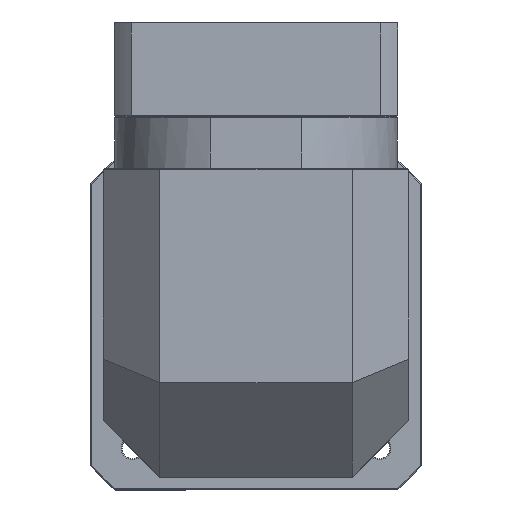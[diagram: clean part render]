
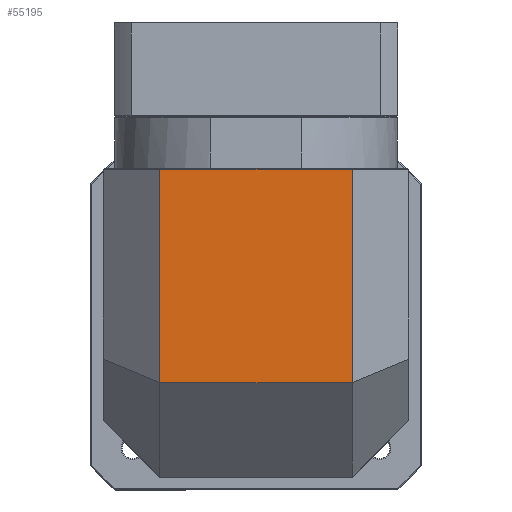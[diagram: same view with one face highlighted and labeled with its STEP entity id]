
A CAD part, top view. The second image highlights one B-rep face of the part: STEP entity #55195.
In plain terms, the highlighted planar face has unit normal (0, 0, 1).
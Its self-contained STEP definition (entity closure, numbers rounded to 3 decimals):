
#1108 = CARTESIAN_POINT ( 'NONE',  ( -200.739, 114.096, 76.693 ) ) ;
#2293 = CARTESIAN_POINT ( 'NONE',  ( -170.739, 1.096, 76.693 ) ) ;
#6027 = ORIENTED_EDGE ( 'NONE', *, *, #54047, .T. ) ;
#6655 = VERTEX_POINT ( 'NONE', #2293 ) ;
#9285 = CARTESIAN_POINT ( 'NONE',  ( -170.739, 32.846, 76.693 ) ) ;
#12204 = CARTESIAN_POINT ( 'NONE',  ( -200.739, 114.596, 76.693 ) ) ;
#13695 = LINE ( 'NONE', #85353, #107522 ) ;
#14276 = CARTESIAN_POINT ( 'NONE',  ( -170.739, 114.096, 76.693 ) ) ;
#17471 = LINE ( 'NONE', #37377, #79995 ) ;
#18302 = ORIENTED_EDGE ( 'NONE', *, *, #46800, .F. ) ;
#31588 = DIRECTION ( 'NONE',  ( 1., 0., 0. ) ) ;
#35344 = ORIENTED_EDGE ( 'NONE', *, *, #48212, .T. ) ;
#37377 = CARTESIAN_POINT ( 'NONE',  ( -68.739, 114.596, 76.693 ) ) ;
#42896 = DIRECTION ( 'NONE',  ( -1., 0., 0. ) ) ;
#43719 = VECTOR ( 'NONE', #42896, 1000. ) ;
#46800 = EDGE_CURVE ( 'NONE', #6655, #125241, #101864, .T. ) ;
#48212 = EDGE_CURVE ( 'NONE', #68967, #98180, #17471, .T. ) ;
#48627 = AXIS2_PLACEMENT_3D ( 'NONE', #12204, #106901, #86593 ) ;
#54047 = EDGE_CURVE ( 'NONE', #98180, #125241, #116142, .T. ) ;
#55195 = ADVANCED_FACE ( 'NONE', ( #112349 ), #136363, .F. ) ;
#57320 = CARTESIAN_POINT ( 'NONE',  ( -68.739, 1.096, 76.693 ) ) ;
#68967 = VERTEX_POINT ( 'NONE', #57320 ) ;
#79995 = VECTOR ( 'NONE', #110966, 1000. ) ;
#85353 = CARTESIAN_POINT ( 'NONE',  ( -200.739, 1.096, 76.693 ) ) ;
#86593 = DIRECTION ( 'NONE',  ( 1., 0., 0. ) ) ;
#90448 = EDGE_CURVE ( 'NONE', #6655, #68967, #13695, .T. ) ;
#96025 = EDGE_LOOP ( 'NONE', ( #35344, #6027, #18302, #112430 ) ) ;
#98180 = VERTEX_POINT ( 'NONE', #118877 ) ;
#101864 = LINE ( 'NONE', #9285, #106906 ) ;
#106901 = DIRECTION ( 'NONE',  ( 0., 0., -1. ) ) ;
#106906 = VECTOR ( 'NONE', #126501, 1000. ) ;
#107522 = VECTOR ( 'NONE', #31588, 1000. ) ;
#110966 = DIRECTION ( 'NONE',  ( 0., 1., 0. ) ) ;
#112349 = FACE_OUTER_BOUND ( 'NONE', #96025, .T. ) ;
#112430 = ORIENTED_EDGE ( 'NONE', *, *, #90448, .T. ) ;
#116142 = LINE ( 'NONE', #1108, #43719 ) ;
#118877 = CARTESIAN_POINT ( 'NONE',  ( -68.739, 114.096, 76.693 ) ) ;
#125241 = VERTEX_POINT ( 'NONE', #14276 ) ;
#126501 = DIRECTION ( 'NONE',  ( 0., 1., 0. ) ) ;
#136363 = PLANE ( 'NONE',  #48627 ) ;
